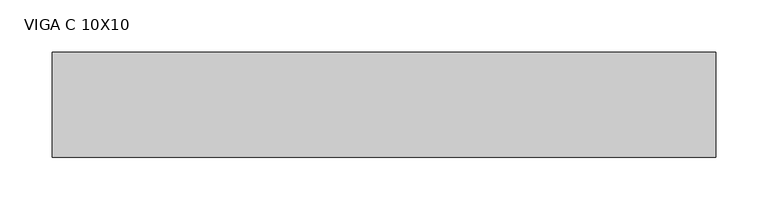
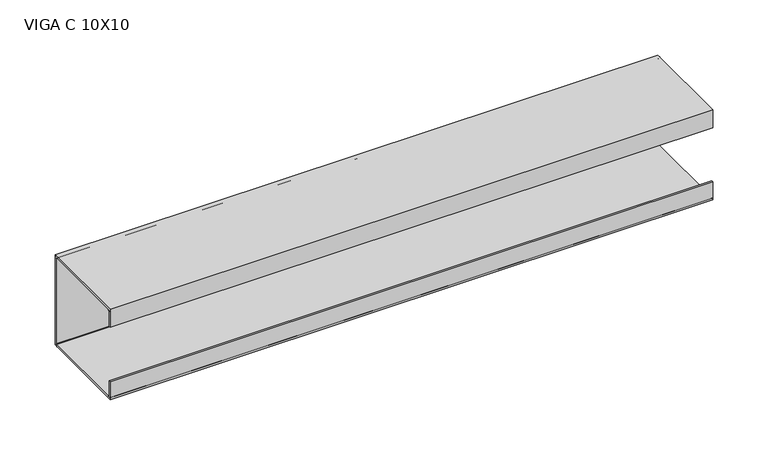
"""IFC4 building model written with IfcOpenShell, lengths in millimetres: beam geometry, VIGA PERFIL C AÇO : VIGA C 10X10."""

from ifc_helpers import new_model, si_unit, point, frame, frame_2d, origin, place, context, project, spatial, polyline, circle_curve, trimmed, segment, composite_curve, outline, extrude, source, transform, mapped, element, save


def viga_c_10x10_6c39ab91(model_context):
    return source(origin(), model_context, "Body", "SweptSolid", [
        extrude(outline(polyline([(9.2, -50.0), (-90.8, -50.0), (-90.8, -30.0), (-88.9, -30.0), (-88.9, -48.1), (7.3, -48.1), (7.3, 48.1), (-88.9, 48.1), (-88.9, 30.0), (-90.8, 30.0), (-90.8, 50.0), (9.2, 50.0), (9.2, -50.0)])), frame((-323.5, 0.0, 0.0), z_axis=(1.0, 0.0, 0.0), x_axis=(0.0, 1.0, 0.0)), (0.0, 0.0, 1.0), 632.0),
        extrude(outline(composite_curve([segment(trimmed(circle_curve(frame_2d((5.4, -46.2)), 3.8), [point((9.2, -46.2))], [point((5.4, -50.0))], False, "CARTESIAN"), True, "CONTINUOUS"), segment(polyline([(5.4, -50.0), (-87.0, -50.0)]), True, "CONTINUOUS"), segment(trimmed(circle_curve(frame_2d((-87.0, -46.2)), 3.8), [point((-87.0, -50.0))], [point((-90.8, -46.2))], False, "CARTESIAN"), True, "CONTINUOUS"), segment(polyline([(-90.8, -46.2), (-90.8, -30.0), (-88.9, -30.0), (-88.9, -46.2)]), True, "CONTINUOUS"), segment(trimmed(circle_curve(frame_2d((-87.0, -46.2)), 1.9), [point((-88.9, -46.2))], [point((-87.0, -48.1))], True, "CARTESIAN"), True, "CONTINUOUS"), segment(polyline([(-87.0, -48.1), (5.4, -48.1)]), True, "CONTINUOUS"), segment(trimmed(circle_curve(frame_2d((5.4, -46.2)), 1.9), [point((5.4, -48.1))], [point((7.3, -46.2))], True, "CARTESIAN"), True, "CONTINUOUS"), segment(polyline([(7.3, -46.2), (7.3, 46.2)]), True, "CONTINUOUS"), segment(trimmed(circle_curve(frame_2d((5.4, 46.2)), 1.9), [point((7.3, 46.2))], [point((5.4, 48.1))], True, "CARTESIAN"), True, "CONTINUOUS"), segment(polyline([(5.4, 48.1), (-87.0, 48.1)]), True, "CONTINUOUS"), segment(trimmed(circle_curve(frame_2d((-87.0, 46.2)), 1.9), [point((-87.0, 48.1))], [point((-88.9, 46.2))], True, "CARTESIAN"), True, "CONTINUOUS"), segment(polyline([(-88.9, 46.2), (-88.9, 30.0), (-90.8, 30.0), (-90.8, 46.2)]), True, "CONTINUOUS"), segment(trimmed(circle_curve(frame_2d((-87.0, 46.2)), 3.8), [point((-90.8, 46.2))], [point((-87.0, 50.0))], False, "CARTESIAN"), True, "CONTINUOUS"), segment(polyline([(-87.0, 50.0), (5.4, 50.0)]), True, "CONTINUOUS"), segment(trimmed(circle_curve(frame_2d((5.4, 46.2)), 3.8), [point((5.4, 50.0))], [point((9.2, 46.2))], False, "CARTESIAN"), True, "CONTINUOUS"), segment(polyline([(9.2, 46.2), (9.2, -46.2)]), True, "CONTINUOUS")], self_intersect=False)), frame((-323.5, 0.0, 0.0), z_axis=(1.0, 0.0, 0.0), x_axis=(0.0, 1.0, 0.0)), (0.0, 0.0, 1.0), 632.0),
    ])


if __name__ == "__main__":
    model = new_model("IFC4")
    model_context = context("Model", 3, world=origin())
    ifc_project = project(units=[si_unit("LENGTHUNIT", "METRE", prefix="MILLI")], contexts=[model_context])
    site = spatial("IfcSite", under=ifc_project)
    building = spatial("IfcBuilding", under=site)
    placement = place(None, origin())
    viga_c_10x10_shape = viga_c_10x10_6c39ab91(model_context)
    element("IfcBeam", 1, ObjectType="VIGA PERFIL C AÇO : VIGA C 10X10", at=placement, inside=building, context=model_context, shape_type="MappedRepresentation", body=[
        mapped(viga_c_10x10_shape, transform((0.0, 0.0, 0.0), x_axis=(1.0, 0.0, 0.0), y_axis=(0.0, 1.0, 0.0), z_axis=(0.0, 0.0, 1.0))),
    ])
    save(model, "model.ifc")
